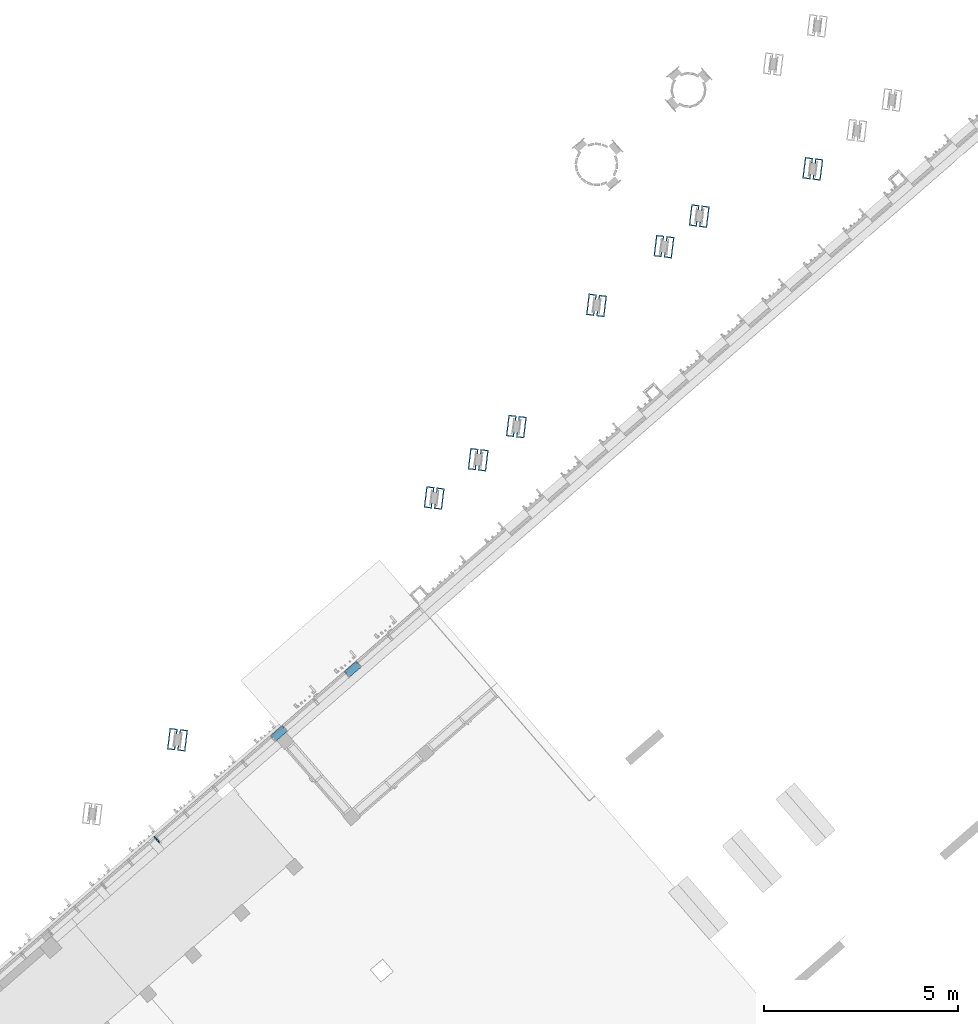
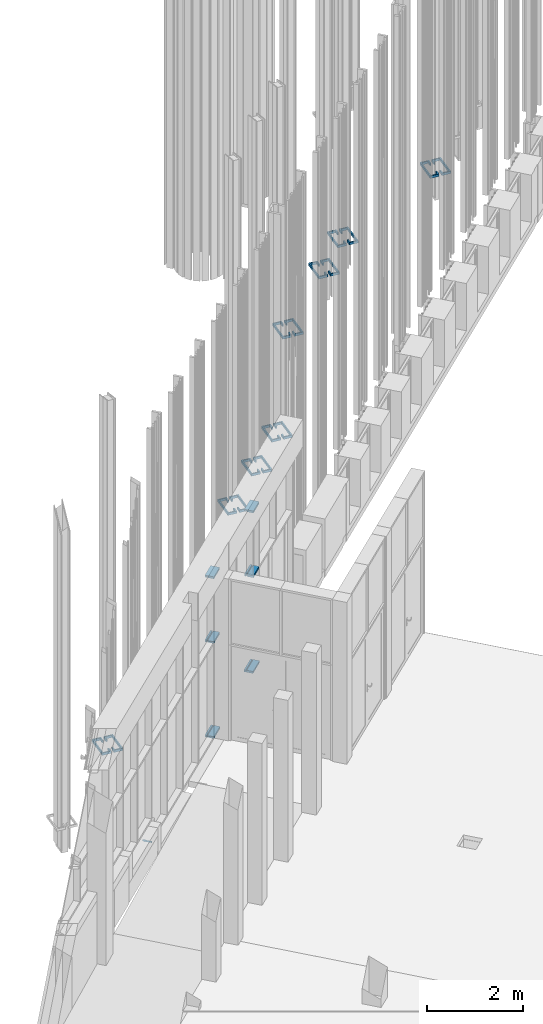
# One storey, part 66 of 390: 23 discrete accessories, 1 element without a shape of its own.
"""IFC2X3 building model written with IfcOpenShell, lengths in millimetres."""

from ifc_helpers import new_model, entity, si_unit, converted_unit, derived_unit, money_unit, direction, frame, origin_with_axes, place, context, subcontext, project, spatial, polyline, outline, extrude, clip, halfspace, material, material_list, type_object, element, aggregate, save


model = new_model("IFC2X3")

# Units and contexts
model_context = context("Model", 3, precision=1e-05, world=origin_with_axes(), true_north=direction((0.0, 1.0)))
body_context = subcontext(model_context, "Body", "Model", "MODEL_VIEW")
ifc_project = project(units=[si_unit("LENGTHUNIT", "METRE", prefix="MILLI"), si_unit("AREAUNIT", "SQUARE_METRE"), si_unit("VOLUMEUNIT", "CUBIC_METRE"), converted_unit("PLANEANGLEUNIT", "DEGREE", entity("IfcPlaneAngleMeasure", 0.0174532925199), si_unit("PLANEANGLEUNIT", "RADIAN"), dimensions=[0, 0, 0, 0, 0, 0, 0]), si_unit("SOLIDANGLEUNIT", "STERADIAN"), money_unit("EUR"), converted_unit("TIMEUNIT", "Year", entity("IfcTimeMeasure", 31556926.0), si_unit("TIMEUNIT", "SECOND"), dimensions=[0, 0, 1, 0, 0, 0, 0]), si_unit("MASSUNIT", "GRAM", prefix="KILO"), si_unit("THERMODYNAMICTEMPERATUREUNIT", "DEGREE_CELSIUS"), si_unit("LUMINOUSINTENSITYUNIT", "LUMEN"), si_unit("ENERGYUNIT", "JOULE", prefix="MEGA"), derived_unit("THERMALCONDUCTANCEUNIT", [(si_unit("POWERUNIT", "WATT"), 1), (si_unit("LENGTHUNIT", "METRE"), -1), (si_unit("THERMODYNAMICTEMPERATUREUNIT", "KELVIN"), -1)]), derived_unit("SPECIFICHEATCAPACITYUNIT", [(si_unit("ENERGYUNIT", "JOULE"), 1), (si_unit("MASSUNIT", "GRAM", prefix="KILO"), -1), (si_unit("THERMODYNAMICTEMPERATUREUNIT", "KELVIN"), -1)]), derived_unit("MASSDENSITYUNIT", [(si_unit("MASSUNIT", "GRAM", prefix="KILO"), 1), (si_unit("VOLUMEUNIT", "CUBIC_METRE"), -1)])], contexts=[model_context])

# Site, building, storey
site_placement = place(None, origin_with_axes())
site = spatial("IfcSite", under=ifc_project, at=site_placement, Name="Site", CompositionType="ELEMENT")
building_placement = place(site_placement, origin_with_axes())
building = spatial("IfcBuilding", under=site, at=building_placement, Name="Building", CompositionType="ELEMENT")
storey_placement = place(building_placement, origin_with_axes())
storey = spatial("IfcBuildingStorey", under=building, at=storey_placement, Name="1 korrus", CompositionType="ELEMENT", Elevation=0.0)

# Discrete accessories
ifc_material_1 = material(Name="Teras (musta värvi)")
discrete_accessory_type_1 = type_object("IfcDiscreteAccessoryType", Name="Teras (musta värvi) 60")
discrete_accessory_1_placement = place(storey_placement, frame((138098.087937, 92398.5425986, 740.0), z_axis=(0.0, 0.0, 1.0), x_axis=(1.0, 0.0, 0.0)))
element("IfcDiscreteAccessory", 1, at=discrete_accessory_1_placement, inside=storey, type_object=discrete_accessory_type_1, material=ifc_material_1, Name="Rattahoidja", context=body_context, shape_type="SweptSolid", body=[
    extrude(outline(polyline([(0.0, 0.0), (-203.471963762, 24.9832132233), (-218.705629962, -99.0850523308), (-188.929244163, -102.741136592), (-177.351660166, -8.44924858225), (-33.4324618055, -26.1203035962), (-93.1484414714, -512.467919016), (-237.067631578, -494.79686606), (-225.49004758, -400.504978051), (-255.266435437, -396.848902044), (-270.500101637, -520.917167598), (-67.0281378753, -545.900380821), (0.0, 0.0)])), frame((0.0, 0.0, -60.0), z_axis=(0.0, 0.0, 1.0), x_axis=(1.0, 0.0, 0.0)), (0.0, 0.0, 1.0), 60.0),
])
discrete_accessory_2_placement = place(storey_placement, frame((129897.987553, 85254.5372738, 740.0), z_axis=(0.0, 0.0, 1.0), x_axis=(1.0, 0.0, 0.0)))
element("IfcDiscreteAccessory", 2, at=discrete_accessory_2_placement, inside=storey, type_object=discrete_accessory_type_1, material=ifc_material_1, Name="Rattahoidja", context=body_context, shape_type="SweptSolid", body=[
    extrude(outline(polyline([(0.0, 0.0), (-67.0281391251, -545.900380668), (136.443824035, -570.883598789), (151.677492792, -446.815333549), (121.901106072, -443.159248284), (110.323514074, -537.451135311), (-33.5956756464, -519.780079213), (26.1203014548, -33.4324634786), (170.039499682, -51.1035195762), (158.461907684, -145.395406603), (188.238294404, -149.051483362), (203.471963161, -24.9832181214), (0.0, 0.0)])), frame((0.0, 0.0, -60.0), z_axis=(0.0, 0.0, 1.0), x_axis=(1.0, 0.0, 0.0)), (0.0, 0.0, 1.0), 60.0),
])
for number, where, z_axis, x_axis in (
    (3, (130364.484243, 85197.2586826, 740.0), (0.0, 0.0, 1.0), (1.0, 0.0, 0.0)),
    (4, (143781.589382, 98664.1480228, 740.0), (0.0, 0.0, 1.0), (1.0, 0.0, 0.0)),
    (5, (142875.937885, 97876.877188, 740.0), (0.0, 0.0, 1.0), (1.0, 0.0, 0.0)),
):
    element("IfcDiscreteAccessory", number, at=place(storey_placement, frame(where, z_axis=z_axis, x_axis=x_axis)), inside=storey, type_object=discrete_accessory_type_1, material=ifc_material_1, Name="Rattahoidja", context=body_context, shape_type="SweptSolid", body=[
        extrude(outline(polyline([(0.0, 0.0), (-203.471963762, 24.9832132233), (-218.705629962, -99.0850523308), (-188.929244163, -102.741136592), (-177.351660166, -8.44924858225), (-33.4324618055, -26.1203035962), (-93.1484414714, -512.467919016), (-237.067631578, -494.79686606), (-225.49004758, -400.504978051), (-255.266435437, -396.848902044), (-270.500101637, -520.917167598), (-67.0281378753, -545.900380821), (0.0, 0.0)])), frame((0.0, 0.0, -60.0), z_axis=(0.0, 0.0, 1.0), x_axis=(1.0, 0.0, 0.0)), (0.0, 0.0, 1.0), 60.0),
    ])
discrete_accessory_3_placement = place(storey_placement, frame((146235.28046, 99934.8941211, 740.0), z_axis=(0.0, 0.0, 1.0), x_axis=(1.0, 0.0, 0.0)))
element("IfcDiscreteAccessory", 6, at=discrete_accessory_3_placement, inside=storey, type_object=discrete_accessory_type_1, material=ifc_material_1, Name="Rattahoidja", context=body_context, shape_type="SweptSolid", body=[
    extrude(outline(polyline([(0.0, 0.0), (-67.0281391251, -545.900380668), (136.443824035, -570.883598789), (151.677492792, -446.815333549), (121.901106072, -443.159248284), (110.323514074, -537.451135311), (-33.5956756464, -519.780079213), (26.1203014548, -33.4324634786), (170.039499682, -51.1035195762), (158.461907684, -145.395406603), (188.238294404, -149.051483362), (203.471963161, -24.9832181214), (0.0, 0.0)])), frame((0.0, 0.0, -60.0), z_axis=(0.0, 0.0, 1.0), x_axis=(1.0, 0.0, 0.0)), (0.0, 0.0, 1.0), 60.0),
])
discrete_accessory_4_placement = place(storey_placement, frame((146701.777151, 99877.6155298, 740.0), z_axis=(0.0, 0.0, 1.0), x_axis=(1.0, 0.0, 0.0)))
element("IfcDiscreteAccessory", 7, at=discrete_accessory_4_placement, inside=storey, type_object=discrete_accessory_type_1, material=ifc_material_1, Name="Rattahoidja", context=body_context, shape_type="SweptSolid", body=[
    extrude(outline(polyline([(0.0, 0.0), (-203.471963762, 24.9832132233), (-218.705629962, -99.0850523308), (-188.929244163, -102.741136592), (-177.351660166, -8.44924858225), (-33.4324618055, -26.1203035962), (-93.1484414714, -512.467919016), (-237.067631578, -494.79686606), (-225.49004758, -400.504978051), (-255.266435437, -396.848902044), (-270.500101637, -520.917167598), (-67.0281378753, -545.900380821), (0.0, 0.0)])), frame((0.0, 0.0, -60.0), z_axis=(0.0, 0.0, 1.0), x_axis=(1.0, 0.0, 0.0)), (0.0, 0.0, 1.0), 60.0),
])
for number, where, z_axis, x_axis in (
    (8, (143315.092691, 98721.4266141, 740.0), (0.0, 0.0, 1.0), (1.0, 0.0, 0.0)),
    (9, (137631.591247, 92455.8211899, 740.0), (0.0, 0.0, 1.0), (1.0, 0.0, 0.0)),
    (10, (138612.713701, 93308.6979277, 740.0), (0.0, 0.0, 1.0), (1.0, 0.0, 0.0)),
    (11, (140673.60916, 96425.2200124, 740.0), (0.0, 0.0, 1.0), (1.0, 0.0, 0.0)),
):
    element("IfcDiscreteAccessory", number, at=place(storey_placement, frame(where, z_axis=z_axis, x_axis=x_axis)), inside=storey, type_object=discrete_accessory_type_1, material=ifc_material_1, Name="Rattahoidja", context=body_context, shape_type="SweptSolid", body=[
        extrude(outline(polyline([(0.0, 0.0), (-67.0281391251, -545.900380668), (136.443824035, -570.883598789), (151.677492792, -446.815333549), (121.901106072, -443.159248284), (110.323514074, -537.451135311), (-33.5956756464, -519.780079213), (26.1203014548, -33.4324634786), (170.039499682, -51.1035195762), (158.461907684, -145.395406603), (188.238294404, -149.051483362), (203.471963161, -24.9832181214), (0.0, 0.0)])), frame((0.0, 0.0, -60.0), z_axis=(0.0, 0.0, 1.0), x_axis=(1.0, 0.0, 0.0)), (0.0, 0.0, 1.0), 60.0),
    ])
for number, where, z_axis, x_axis in (
    (12, (141140.105851, 96367.9414212, 740.0), (0.0, 0.0, 1.0), (1.0, 0.0, 0.0)),
    (13, (139079.210391, 93251.4193364, 740.0), (0.0, 0.0, 1.0), (1.0, 0.0, 0.0)),
    (14, (136966.023567, 91414.454055, 740.0), (0.0, 0.0, 1.0), (1.0, 0.0, 0.0)),
):
    element("IfcDiscreteAccessory", number, at=place(storey_placement, frame(where, z_axis=z_axis, x_axis=x_axis)), inside=storey, type_object=discrete_accessory_type_1, material=ifc_material_1, Name="Rattahoidja", context=body_context, shape_type="SweptSolid", body=[
        extrude(outline(polyline([(0.0, 0.0), (-203.471963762, 24.9832132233), (-218.705629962, -99.0850523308), (-188.929244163, -102.741136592), (-177.351660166, -8.44924858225), (-33.4324618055, -26.1203035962), (-93.1484414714, -512.467919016), (-237.067631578, -494.79686606), (-225.49004758, -400.504978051), (-255.266435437, -396.848902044), (-270.500101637, -520.917167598), (-67.0281378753, -545.900380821), (0.0, 0.0)])), frame((0.0, 0.0, -60.0), z_axis=(0.0, 0.0, 1.0), x_axis=(1.0, 0.0, 0.0)), (0.0, 0.0, 1.0), 60.0),
    ])
for number, where, z_axis, x_axis in (
    (15, (142409.441195, 97934.1557793, 740.0), (0.0, 0.0, 1.0), (1.0, 0.0, 0.0)),
    (16, (136499.526876, 91471.7326463, 740.0), (0.0, 0.0, 1.0), (1.0, 0.0, 0.0)),
):
    element("IfcDiscreteAccessory", number, at=place(storey_placement, frame(where, z_axis=z_axis, x_axis=x_axis)), inside=storey, type_object=discrete_accessory_type_1, material=ifc_material_1, Name="Rattahoidja", context=body_context, shape_type="SweptSolid", body=[
        extrude(outline(polyline([(0.0, 0.0), (-67.0281391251, -545.900380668), (136.443824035, -570.883598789), (151.677492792, -446.815333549), (121.901106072, -443.159248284), (110.323514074, -537.451135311), (-33.5956756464, -519.780079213), (26.1203014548, -33.4324634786), (170.039499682, -51.1035195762), (158.461907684, -145.395406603), (188.238294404, -149.051483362), (203.471963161, -24.9832181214), (0.0, 0.0)])), frame((0.0, 0.0, -60.0), z_axis=(0.0, 0.0, 1.0), x_axis=(1.0, 0.0, 0.0)), (0.0, 0.0, 1.0), 60.0),
    ])

# Curtain wall, discrete accessories
curtain_wall_type = type_object("IfcCurtainWallType", Name="KLF-16", PredefinedType="NOTDEFINED")
curtain_wall_placement = place(storey_placement, frame((129915.663376, 82755.7268841, -0.000187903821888), z_axis=(0.0, 0.0, 1.0), x_axis=(1.0, 0.0, 0.0)))
curtain_wall = element("IfcCurtainWall", 17, at=curtain_wall_placement, inside=storey, type_object=curtain_wall_type, Name="Klaasfassaad")
ifc_material_2 = material(Name="Aluminium MUST")
ifc_material_list_1 = material_list([ifc_material_2, ifc_material_2])
discrete_accessory_type_2 = type_object("IfcDiscreteAccessoryType", Name="50 x 200")
discrete_accessory_5_placement = place(curtain_wall_placement, frame((4796.17938031, 4169.25513154, 2435.0001879), z_axis=(-0.754709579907, -0.656059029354, 0.0), x_axis=(0.0, 0.0, 1.0)))
discrete_accessory_5 = element("IfcDiscreteAccessory", 18, at=discrete_accessory_5_placement, type_object=discrete_accessory_type_2, material=ifc_material_list_1, Name="KLF-16 profiil", context=body_context, shape_type="SweptSolid", body=[
    extrude(outline(polyline([(-150.0, -25.0), (-10.0, -25.0), (-10.0, 25.0), (-150.0, 25.0), (-150.0, -25.0)])), frame((0.0, 0.0, 0.0), z_axis=(0.0, 0.0, 1.0), x_axis=(0.0, 1.0, 0.0)), (0.0, 0.0, 1.0), 370.0),
    extrude(outline(polyline([(50.0, 25.0), (9.99999999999, 25.0), (9.99999999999, -25.0), (50.0, -25.0), (50.0, 25.0)])), frame((0.0, 0.0, 0.0), z_axis=(0.0, 0.0, 1.0), x_axis=(0.0, 1.0, 0.0)), (0.0, 0.0, 1.0), 370.0),
])
discrete_accessory_6_placement = place(curtain_wall_placement, frame((2894.31123894, 2515.98637757, 2435.0001879), z_axis=(-0.754709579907, -0.656059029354, 0.0), x_axis=(0.0, 0.0, 1.0)))
discrete_accessory_6 = element("IfcDiscreteAccessory", 19, at=discrete_accessory_6_placement, type_object=discrete_accessory_type_2, material=ifc_material_list_1, Name="KLF-16 profiil", context=body_context, shape_type="SweptSolid", body=[
    extrude(outline(polyline([(-150.0, -25.0), (-10.0, -25.0), (-10.0, 25.0), (-150.0, 25.0), (-150.0, -25.0)])), frame((0.0, 0.0, 0.0), z_axis=(0.0, 0.0, 1.0), x_axis=(0.0, 1.0, 0.0)), (0.0, 0.0, 1.0), 370.0),
    extrude(outline(polyline([(50.0, 25.0), (10.0, 25.0), (10.0, -25.0), (50.0, -25.0), (50.0, 25.0)])), frame((0.0, 0.0, 0.0), z_axis=(0.0, 0.0, 1.0), x_axis=(0.0, 1.0, 0.0)), (0.0, 0.0, 1.0), 370.0),
])
ifc_material_list_2 = material_list([ifc_material_2, ifc_material_2, ifc_material_2])
discrete_accessory_7_placement = place(curtain_wall_placement, frame((-373.581242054, -324.74921953, 0.000388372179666), z_axis=(-0.754709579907, -0.656059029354, -2.19800809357e-08), x_axis=(-1.65885776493e-08, -1.44202305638e-08, 1.0)))
discrete_accessory_7 = element("IfcDiscreteAccessory", 20, at=discrete_accessory_7_placement, type_object=discrete_accessory_type_2, material=ifc_material_list_2, Name="KLF-16 profiil", context=body_context, shape_type="Clipping", body=[
    clip(extrude(outline(polyline([(-10.0, -25.0), (9.99999999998, -25.0), (10.0, 0.0), (-10.0, 0.0), (-10.0, -25.0)])), frame((0.0, 0.0, -5.49505330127e-07), z_axis=(0.0, 0.0, 1.0), x_axis=(0.0, 1.0, 0.0)), (0.0, 0.0, 1.0), 25.1461674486), halfspace(frame((12.5730830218, 0.0, 12.5698036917), z_axis=(-0.707199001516, 0.0, -0.707014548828), x_axis=(0.0, 1.0, 0.0)), True)),
    clip(extrude(outline(polyline([(-10.0, -25.1396087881), (-10.0, 0.0), (-150.0, 0.0), (-150.0, -25.1396087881), (-10.0, -25.1396087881)])), frame((0.0, 0.0, -5.49505330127e-07), z_axis=(0.0, 0.0, 1.0), x_axis=(0.0, 1.0, 0.0)), (0.0, 0.0, 1.0), 25.1461674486), halfspace(frame((12.5730830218, 0.0, 12.5698036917), z_axis=(-0.707199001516, 0.0, -0.707014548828), x_axis=(0.0, 1.0, 0.0)), True)),
    clip(extrude(outline(polyline([(9.99999999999, -25.1396087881), (50.0, -25.1396087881), (50.0, 0.0), (10.0, 0.0), (9.99999999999, -25.1396087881)])), frame((0.0, 0.0, -5.49505330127e-07), z_axis=(0.0, 0.0, 1.0), x_axis=(0.0, 1.0, 0.0)), (0.0, 0.0, 1.0), 25.1461674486), halfspace(frame((12.5730830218, 0.0, 12.5698036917), z_axis=(-0.707199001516, 0.0, -0.707014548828), x_axis=(0.0, 1.0, 0.0)), True)),
])
discrete_accessory_8_placement = place(curtain_wall_placement, frame((4796.17938031, 4169.25513154, -0.000126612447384), z_axis=(-0.754709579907, -0.656059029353, 6.95925171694e-07), x_axis=(5.25221393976e-07, 4.56567992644e-07, 1.0)))
discrete_accessory_8 = element("IfcDiscreteAccessory", 21, at=discrete_accessory_8_placement, type_object=discrete_accessory_type_2, material=ifc_material_list_2, Name="KLF-16 profiil", context=body_context, shape_type="SweptSolid", body=[
    extrude(outline(polyline([(-9.99999999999, -25.0), (10.0, -25.0), (10.0, 0.0), (-9.99999999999, 0.0), (-9.99999999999, -25.0)])), frame((0.0, 0.0, -25.0), z_axis=(0.0, 0.0, 1.0), x_axis=(0.0, 1.0, 0.0)), (0.0, 0.0, 1.0), 420.0),
    extrude(outline(polyline([(-150.0, -50.0), (-10.0, -50.0), (-9.99999999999, 0.0), (-150.0, 0.0), (-150.0, -50.0)])), frame((0.0, 0.0, -25.0), z_axis=(0.0, 0.0, 1.0), x_axis=(0.0, 1.0, 0.0)), (0.0, 0.0, 1.0), 420.0),
    extrude(outline(polyline([(50.0, 0.0), (10.0, 0.0), (10.0, -50.0), (50.0, -50.0), (50.0, 0.0)])), frame((0.0, 0.0, -25.0), z_axis=(0.0, 0.0, 1.0), x_axis=(0.0, 1.0, 0.0)), (0.0, 0.0, 1.0), 420.0),
])
discrete_accessory_9_placement = place(curtain_wall_placement, frame((2615.06869438, 2273.24453671, 4099.99988156), z_axis=(0.754709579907, 0.656059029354, 0.0), x_axis=(0.0, 0.0, -1.0)))
discrete_accessory_9 = element("IfcDiscreteAccessory", 22, at=discrete_accessory_9_placement, type_object=discrete_accessory_type_2, material=ifc_material_list_2, Name="KLF-16 profiil", context=body_context, shape_type="SweptSolid", body=[
    extrude(outline(polyline([(10.0, 25.0), (-10.0, 25.0), (-10.0, 0.0), (10.0, 0.0), (10.0, 25.0)])), frame((0.0, 0.0, 0.0), z_axis=(0.0, 0.0, 1.0), x_axis=(0.0, -1.0, 0.0)), (0.0, 0.0, 1.0), 370.0),
    extrude(outline(polyline([(150.0, 50.0), (10.0, 50.0), (10.0, 0.0), (150.0, 0.0), (150.0, 50.0)])), frame((0.0, 0.0, 0.0), z_axis=(0.0, 0.0, 1.0), x_axis=(0.0, -1.0, 0.0)), (0.0, 0.0, 1.0), 370.0),
    extrude(outline(polyline([(-50.0, 0.0), (-10.0, 0.0), (-10.0, 50.0), (-50.0, 50.0), (-50.0, 0.0)])), frame((0.0, 0.0, 0.0), z_axis=(0.0, 0.0, 1.0), x_axis=(0.0, -1.0, 0.0)), (0.0, 0.0, 1.0), 370.0),
])
discrete_accessory_10_placement = place(curtain_wall_placement, frame((4516.93683574, 3926.51329068, 4099.99988156), z_axis=(0.754709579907, 0.656059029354, 0.0), x_axis=(0.0, 0.0, -1.0)))
discrete_accessory_10 = element("IfcDiscreteAccessory", 23, at=discrete_accessory_10_placement, type_object=discrete_accessory_type_2, material=ifc_material_list_2, Name="KLF-16 profiil", context=body_context, shape_type="SweptSolid", body=[
    extrude(outline(polyline([(9.99999999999, 25.0), (-10.0, 25.0), (-10.0, 0.0), (9.99999999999, 0.0), (9.99999999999, 25.0)])), frame((0.0, 0.0, 0.0), z_axis=(0.0, 0.0, 1.0), x_axis=(0.0, -1.0, 0.0)), (0.0, 0.0, 1.0), 370.0),
    extrude(outline(polyline([(150.0, 50.0), (9.99999999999, 50.0), (9.99999999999, 0.0), (150.0, 0.0), (150.0, 50.0)])), frame((0.0, 0.0, 0.0), z_axis=(0.0, 0.0, 1.0), x_axis=(0.0, -1.0, 0.0)), (0.0, 0.0, 1.0), 370.0),
    extrude(outline(polyline([(-50.0, 0.0), (-10.0, 0.0), (-10.0, 50.0), (-50.0, 50.0), (-50.0, 0.0)])), frame((0.0, 0.0, 0.0), z_axis=(0.0, 0.0, 1.0), x_axis=(0.0, -1.0, 0.0)), (0.0, 0.0, 1.0), 370.0),
])
discrete_accessory_11_placement = place(curtain_wall_placement, frame((2894.31123894, 2515.98637757, 0.000130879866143), z_axis=(-0.754709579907, -0.656059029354, 0.0), x_axis=(0.0, 0.0, 1.0)))
discrete_accessory_11 = element("IfcDiscreteAccessory", 24, at=discrete_accessory_11_placement, type_object=discrete_accessory_type_2, material=ifc_material_list_2, Name="KLF-16 profiil", context=body_context, shape_type="SweptSolid", body=[
    extrude(outline(polyline([(-10.0, -25.0), (10.0, -25.0), (10.0, 0.0), (-10.0, 0.0), (-10.0, -25.0)])), frame((0.0, 0.0, -25.0), z_axis=(0.0, 0.0, 1.0), x_axis=(0.0, 1.0, 0.0)), (0.0, 0.0, 1.0), 395.0),
    extrude(outline(polyline([(-150.0, -50.0), (-10.0, -50.0), (-10.0, 0.0), (-150.0, 0.0), (-150.0, -50.0)])), frame((0.0, 0.0, -25.0), z_axis=(0.0, 0.0, 1.0), x_axis=(0.0, 1.0, 0.0)), (0.0, 0.0, 1.0), 395.0),
    extrude(outline(polyline([(50.0, 0.0), (10.0, 0.0), (10.0, -50.0), (50.0, -50.0), (50.0, 0.0)])), frame((0.0, 0.0, -25.0), z_axis=(0.0, 0.0, 1.0), x_axis=(0.0, 1.0, 0.0)), (0.0, 0.0, 1.0), 395.0),
])
aggregate(curtain_wall, [discrete_accessory_5, discrete_accessory_6, discrete_accessory_7, discrete_accessory_8, discrete_accessory_9, discrete_accessory_10, discrete_accessory_11])

save(model, "model.ifc")
